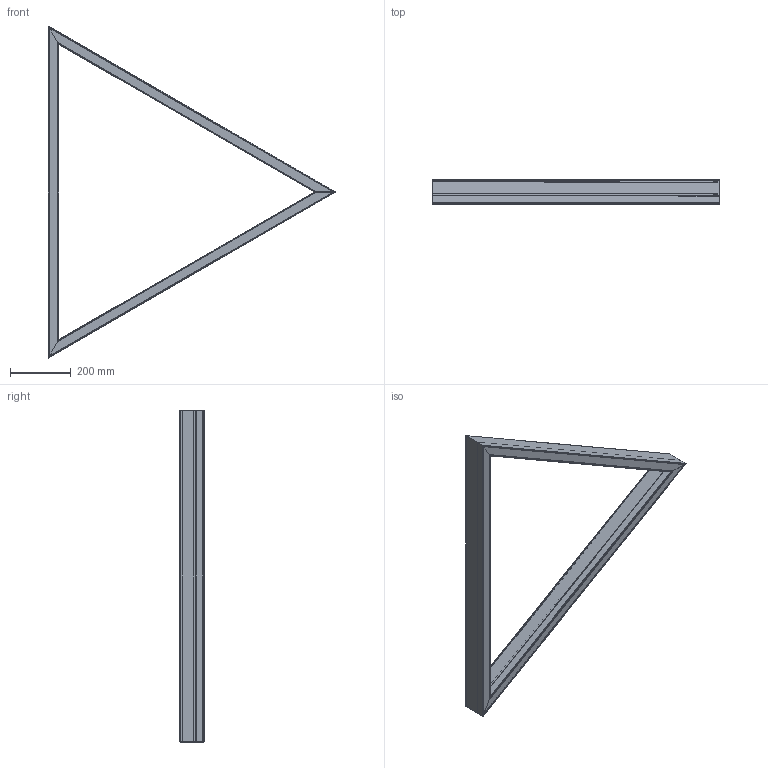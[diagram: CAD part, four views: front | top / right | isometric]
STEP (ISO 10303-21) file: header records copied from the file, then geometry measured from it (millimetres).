
FILE_DESCRIPTION(('STEP AP203'), '1');
FILE_NAME('Ìàòèê Àï 60Âò', '', ('UNSPECIFIED'), ('UNSPECIFIED'), 'ASCON STEP Converter 1.6', 'ASCON Math Kernel', '');
FILE_SCHEMA(('CONFIG_CONTROL_DESIGN'));
Length unit declared in the file: millimetre
Products named in the file (4): -01
Assembly tree (3 placements, depth 2):
  (unnamed)
    (unnamed)
    -01
    (unnamed)
Bounding box: 950.03 x 80 x 1097 mm (x, y, z)
Volume: 1247827.2 mm3; surface area: 1952438.8 mm2
Topology: 7 solids, 7 shells, 551 faces, 1603 edges, 1068 vertices
Faces by surface type: cylinder 299, plane 250, torus 2
Full cylindrical faces by diameter (mm): 8 x1, 10 x2, 14 x2
Entity records: 18282 total; most frequent: CARTESIAN_POINT 5019, ORIENTED_EDGE 3192, DIRECTION 2130, EDGE_CURVE 1596, VERTEX_POINT 1068, LINE 996, VECTOR 996, EDGE_LOOP 570
